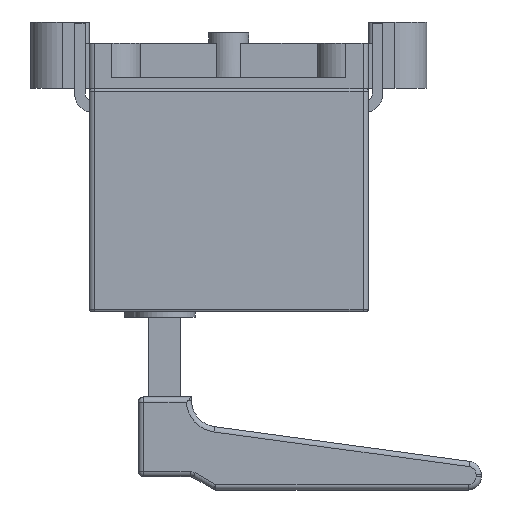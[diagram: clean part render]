
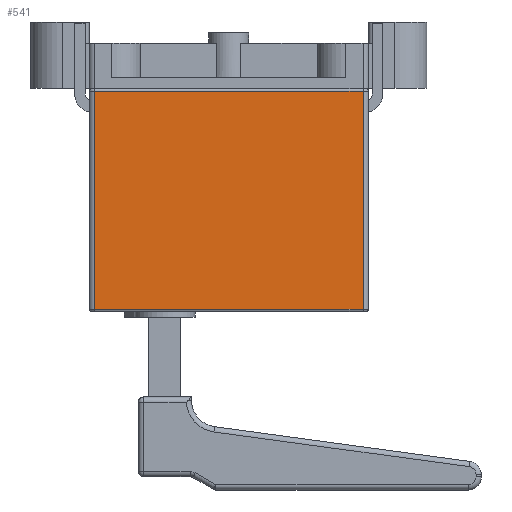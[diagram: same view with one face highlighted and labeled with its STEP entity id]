
A CAD part, left-side view. The second image highlights one B-rep face of the part: STEP entity #541.
In plain terms, the highlighted planar face has unit normal (-1, 0, 0).
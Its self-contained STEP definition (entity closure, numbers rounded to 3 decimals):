
#146=PLANE('',#5427);
#541=ADVANCED_FACE('',(#905),#146,.F.);
#905=FACE_OUTER_BOUND('',#1216,.T.);
#1216=EDGE_LOOP('',(#3023,#3024,#3025,#3026));
#1600=LINE('',#8137,#2009);
#1607=LINE('',#8217,#2016);
#1613=LINE('',#8232,#2022);
#1614=LINE('',#8234,#2023);
#2009=VECTOR('',#6609,1.);
#2016=VECTOR('',#6662,1.);
#2022=VECTOR('',#6684,1.);
#2023=VECTOR('',#6687,1.);
#3023=ORIENTED_EDGE('',*,*,#4523,.T.);
#3024=ORIENTED_EDGE('',*,*,#4490,.T.);
#3025=ORIENTED_EDGE('',*,*,#4524,.F.);
#3026=ORIENTED_EDGE('',*,*,#4514,.T.);
#3877=VERTEX_POINT('',#8125);
#3881=VERTEX_POINT('',#8134);
#3896=VERTEX_POINT('',#8189);
#3900=VERTEX_POINT('',#8216);
#4490=EDGE_CURVE('',#3881,#3877,#1600,.T.);
#4514=EDGE_CURVE('',#3896,#3900,#1607,.T.);
#4523=EDGE_CURVE('',#3900,#3881,#1613,.T.);
#4524=EDGE_CURVE('',#3896,#3877,#1614,.T.);
#5427=AXIS2_PLACEMENT_3D('',#8235,#6688,#6689);
#6609=DIRECTION('',(0.,1.,0.));
#6662=DIRECTION('',(0.,-1.,0.));
#6684=DIRECTION('',(0.,0.,1.));
#6687=DIRECTION('',(0.,0.,1.));
#6688=DIRECTION('',(1.,0.,0.));
#6689=DIRECTION('',(0.,1.,0.));
#8125=CARTESIAN_POINT('',(-197.5,50.5,-1.));
#8134=CARTESIAN_POINT('',(-197.5,-50.5,-1.));
#8137=CARTESIAN_POINT('',(-197.5,-50.5,-1.));
#8189=CARTESIAN_POINT('',(-197.5,50.5,-83.));
#8216=CARTESIAN_POINT('',(-197.5,-50.5,-83.));
#8217=CARTESIAN_POINT('',(-197.5,-50.5,-83.));
#8232=CARTESIAN_POINT('',(-197.5,-50.5,-84.));
#8234=CARTESIAN_POINT('',(-197.5,50.5,-84.));
#8235=CARTESIAN_POINT('',(-197.5,-50.5,-84.));
